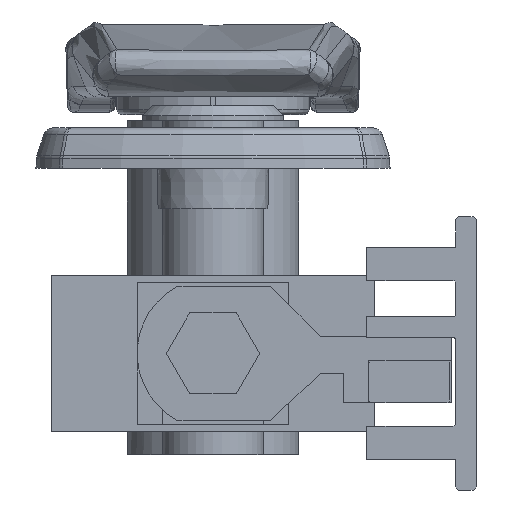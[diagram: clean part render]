
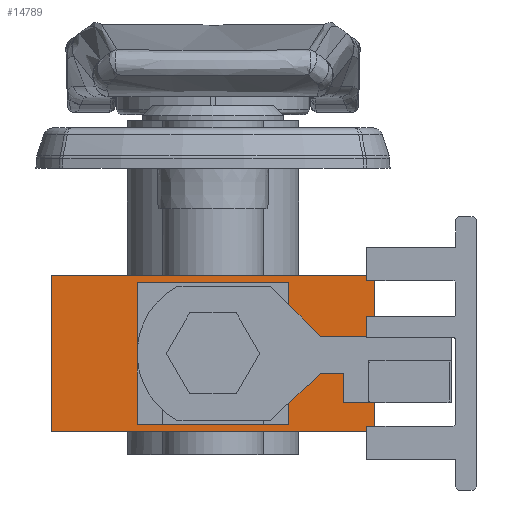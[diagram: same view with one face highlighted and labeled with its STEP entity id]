
A CAD part, front view. The second image highlights one B-rep face of the part: STEP entity #14789.
In plain terms, the highlighted planar face has unit normal (0, -1, 0).
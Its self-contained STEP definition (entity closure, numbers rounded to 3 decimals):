
#32 = LINE ( 'NONE', #20665, #3730 ) ;
#551 = VERTEX_POINT ( 'NONE', #16768 ) ;
#947 = DIRECTION ( 'NONE',  ( 1., 0., 0. ) ) ;
#1918 = VECTOR ( 'NONE', #8796, 1000. ) ;
#2272 = DIRECTION ( 'NONE',  ( 0., 0., -1. ) ) ;
#2360 = EDGE_CURVE ( 'NONE', #18979, #30234, #12740, .T. ) ;
#3549 = CARTESIAN_POINT ( 'NONE',  ( 16., -199.25, 7.75 ) ) ;
#3730 = VECTOR ( 'NONE', #22719, 1000. ) ;
#4584 = ORIENTED_EDGE ( 'NONE', *, *, #19531, .F. ) ;
#4754 = AXIS2_PLACEMENT_3D ( 'NONE', #9981, #30454, #6952 ) ;
#4770 = EDGE_CURVE ( 'NONE', #14308, #23935, #31834, .T. ) ;
#6162 = CARTESIAN_POINT ( 'NONE',  ( 7., -199.25, 6.25 ) ) ;
#6952 = DIRECTION ( 'NONE',  ( 0., 0., 1. ) ) ;
#7119 = FACE_BOUND ( 'NONE', #20202, .T. ) ;
#8026 = CARTESIAN_POINT ( 'NONE',  ( -16., -199.25, 7.75 ) ) ;
#8102 = CARTESIAN_POINT ( 'NONE',  ( 7., -199.25, 6.25 ) ) ;
#8796 = DIRECTION ( 'NONE',  ( 0., 0., -1. ) ) ;
#8913 = CARTESIAN_POINT ( 'NONE',  ( -16., -199.25, -7.75 ) ) ;
#9761 = ORIENTED_EDGE ( 'NONE', *, *, #12086, .T. ) ;
#9973 = EDGE_CURVE ( 'NONE', #21166, #551, #15809, .T. ) ;
#9981 = CARTESIAN_POINT ( 'NONE',  ( -16., -199.25, 7.75 ) ) ;
#10345 = CARTESIAN_POINT ( 'NONE',  ( 7., -199.25, 6.25 ) ) ;
#12086 = EDGE_CURVE ( 'NONE', #30234, #23935, #13950, .T. ) ;
#12507 = CARTESIAN_POINT ( 'NONE',  ( -16., -199.25, 7.75 ) ) ;
#12740 = LINE ( 'NONE', #8026, #13413 ) ;
#13413 = VECTOR ( 'NONE', #18009, 1000. ) ;
#13887 = ORIENTED_EDGE ( 'NONE', *, *, #18166, .F. ) ;
#13950 = LINE ( 'NONE', #8913, #21343 ) ;
#14308 = VERTEX_POINT ( 'NONE', #24975 ) ;
#14717 = ORIENTED_EDGE ( 'NONE', *, *, #4770, .F. ) ;
#14789 = ADVANCED_FACE ( 'NONE', ( #7119, #19957 ), #30112, .F. ) ;
#14951 = CARTESIAN_POINT ( 'NONE',  ( -7., -199.25, -6.25 ) ) ;
#15352 = LINE ( 'NONE', #8102, #30375 ) ;
#15413 = ORIENTED_EDGE ( 'NONE', *, *, #9973, .F. ) ;
#15809 = LINE ( 'NONE', #26152, #25827 ) ;
#16768 = CARTESIAN_POINT ( 'NONE',  ( 7., -199.25, -6.25 ) ) ;
#18009 = DIRECTION ( 'NONE',  ( 0., 0., -1. ) ) ;
#18166 = EDGE_CURVE ( 'NONE', #551, #27416, #28291, .T. ) ;
#18799 = VECTOR ( 'NONE', #2272, 1000. ) ;
#18979 = VERTEX_POINT ( 'NONE', #12507 ) ;
#19531 = EDGE_CURVE ( 'NONE', #27416, #31264, #15352, .T. ) ;
#19957 = FACE_OUTER_BOUND ( 'NONE', #24623, .T. ) ;
#20202 = EDGE_LOOP ( 'NONE', ( #30140, #4584, #13887, #15413 ) ) ;
#20665 = CARTESIAN_POINT ( 'NONE',  ( -16., -199.25, 7.75 ) ) ;
#21166 = VERTEX_POINT ( 'NONE', #26022 ) ;
#21343 = VECTOR ( 'NONE', #947, 1000. ) ;
#22719 = DIRECTION ( 'NONE',  ( 1., 0., 0. ) ) ;
#22979 = CARTESIAN_POINT ( 'NONE',  ( -16., -199.25, -7.75 ) ) ;
#23935 = VERTEX_POINT ( 'NONE', #29866 ) ;
#24623 = EDGE_LOOP ( 'NONE', ( #9761, #14717, #32052, #28492 ) ) ;
#24975 = CARTESIAN_POINT ( 'NONE',  ( 16., -199.25, 7.75 ) ) ;
#25297 = EDGE_CURVE ( 'NONE', #31264, #21166, #32774, .T. ) ;
#25827 = VECTOR ( 'NONE', #31058, 1000. ) ;
#25924 = DIRECTION ( 'NONE',  ( 0., 0., 1. ) ) ;
#26022 = CARTESIAN_POINT ( 'NONE',  ( -7., -199.25, -6.25 ) ) ;
#26152 = CARTESIAN_POINT ( 'NONE',  ( -7., -199.25, -6.25 ) ) ;
#26578 = EDGE_CURVE ( 'NONE', #18979, #14308, #32, .T. ) ;
#26939 = CARTESIAN_POINT ( 'NONE',  ( -7., -199.25, 6.25 ) ) ;
#27416 = VERTEX_POINT ( 'NONE', #6162 ) ;
#28291 = LINE ( 'NONE', #10345, #30663 ) ;
#28492 = ORIENTED_EDGE ( 'NONE', *, *, #2360, .T. ) ;
#29866 = CARTESIAN_POINT ( 'NONE',  ( 16., -199.25, -7.75 ) ) ;
#30112 = PLANE ( 'NONE',  #4754 ) ;
#30140 = ORIENTED_EDGE ( 'NONE', *, *, #25297, .F. ) ;
#30234 = VERTEX_POINT ( 'NONE', #22979 ) ;
#30375 = VECTOR ( 'NONE', #30931, 1000. ) ;
#30454 = DIRECTION ( 'NONE',  ( 0., 1., 0. ) ) ;
#30663 = VECTOR ( 'NONE', #25924, 1000. ) ;
#30931 = DIRECTION ( 'NONE',  ( -1., 0., 0. ) ) ;
#31058 = DIRECTION ( 'NONE',  ( 1., 0., 0. ) ) ;
#31264 = VERTEX_POINT ( 'NONE', #26939 ) ;
#31834 = LINE ( 'NONE', #3549, #1918 ) ;
#32052 = ORIENTED_EDGE ( 'NONE', *, *, #26578, .F. ) ;
#32774 = LINE ( 'NONE', #14951, #18799 ) ;
